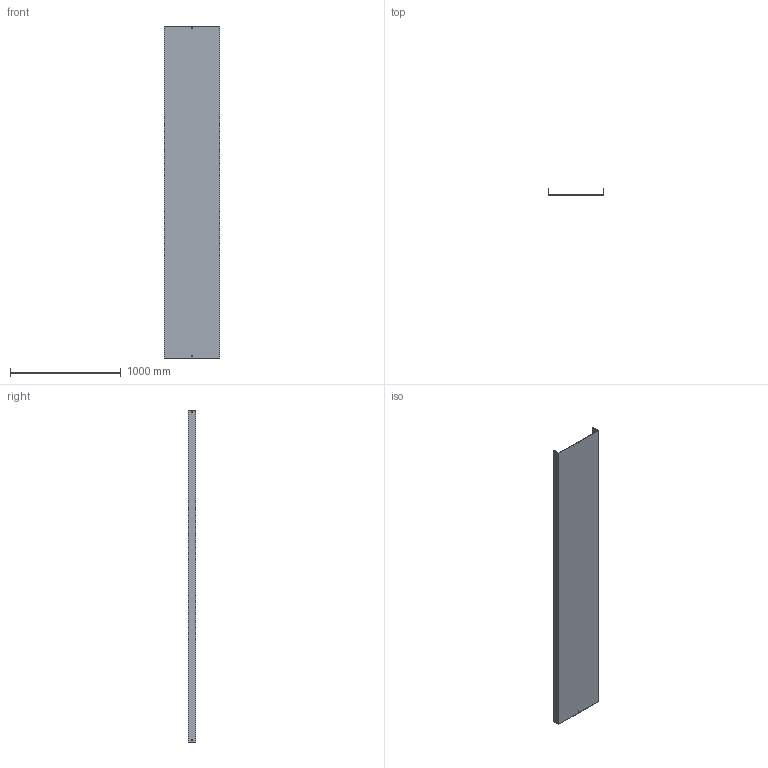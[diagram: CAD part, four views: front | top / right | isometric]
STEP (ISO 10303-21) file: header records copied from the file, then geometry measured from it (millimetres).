
FILE_DESCRIPTION (( 'STEP AP214' ), '1' );
FILE_NAME ('03B3H500.step', '2025-02-21T10:18:21', ( '' ), ( '' ), 'SwSTEP 2.0', 'SolidWorks 2023', '' );
FILE_SCHEMA (( 'AUTOMOTIVE_DESIGN' ));
Length unit declared in the file: millimetre
Products named in the file (1): 03B3H500
Bounding box: 504 x 65.5 x 3000 mm (x, y, z)
Volume: 6592610.5 mm3; surface area: 3793295 mm2
Topology: 1 solids, 1 shells, 34 faces, 96 edges, 64 vertices
Faces by surface type: plane 34
Entity records: 1127 total; most frequent: CARTESIAN_POINT 195, ORIENTED_EDGE 192, DIRECTION 166, VECTOR 96, LINE 96, EDGE_CURVE 96, VERTEX_POINT 64, EDGE_LOOP 46
